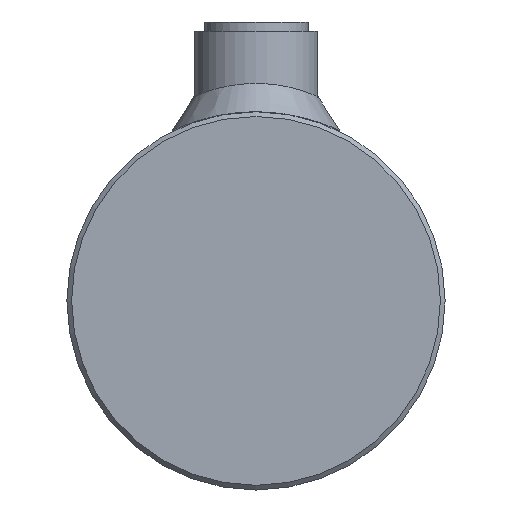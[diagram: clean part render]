
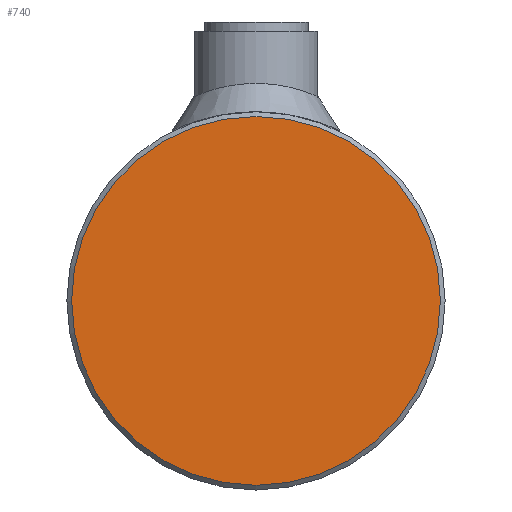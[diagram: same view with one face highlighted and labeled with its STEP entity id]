
A CAD part, left-side view. The second image highlights one B-rep face of the part: STEP entity #740.
In plain terms, the highlighted planar face has unit normal (-1, 0, 0).
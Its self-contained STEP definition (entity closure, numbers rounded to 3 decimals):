
#740 = ADVANCED_FACE( '', ( #1415 ), #1416, .T. );
#1415 = FACE_OUTER_BOUND( '', #4558, .T. );
#1416 = PLANE( '', #4559 );
#4558 = EDGE_LOOP( '', ( #5658 ) );
#4559 = AXIS2_PLACEMENT_3D( '', #5659, #5660, #5661 );
#5658 = ORIENTED_EDGE( '', *, *, #6046, .T. );
#5659 = CARTESIAN_POINT( '', ( -12., 0., 0. ) );
#5660 = DIRECTION( '', ( -1., 0., 0. ) );
#5661 = DIRECTION( '', ( 0., -1., 0. ) );
#6046 = EDGE_CURVE( '', #6569, #6569, #6570, .T. );
#6569 = VERTEX_POINT( '', #7621 );
#6570 = CIRCLE( '', #7622, 39. );
#7621 = CARTESIAN_POINT( '', ( -12., -39., 0. ) );
#7622 = AXIS2_PLACEMENT_3D( '', #8632, #8633, #8634 );
#8632 = CARTESIAN_POINT( '', ( -12., 0., 0. ) );
#8633 = DIRECTION( '', ( -1., 0., 0. ) );
#8634 = DIRECTION( '', ( 0., -1., 0. ) );
